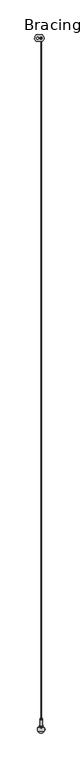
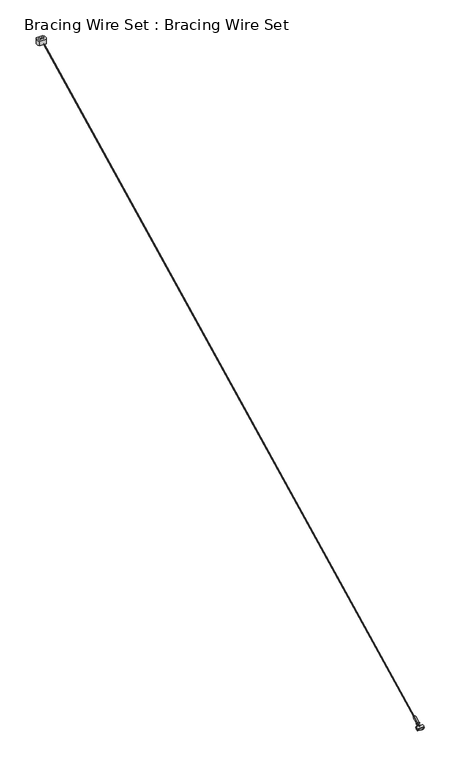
"""IFC4 building model written with IfcOpenShell, lengths in millimetres: proxy geometry, Bracing Wire Set : Bracing Wire Set."""

from ifc_helpers import new_model, si_unit, point, frame, frame_2d, origin, origin_with_axes, place, context, project, spatial, polyline, circle_curve, trimmed, segment, composite_curve, outline, extrude, faceted_brep, source, transform, mapped, element, save


def bracing_wire_set_bracing_wire_set_d6569037(model_context):
    return source(origin(), model_context, "Body", "SolidModel", [
        extrude(outline(composite_curve([segment(trimmed(circle_curve(frame_2d((-404.7764292, 1961.8506976)), 12.7335927), [point((-396.2736485, 1971.3294688))], [point((-395.7036855, 1952.9159505))], False, "CARTESIAN"), True, "CONTINUOUS"), segment(polyline([(-395.7036855, 1952.9159505), (-414.7806619, 1952.9159505)]), True, "CONTINUOUS"), segment(trimmed(circle_curve(frame_2d((-405.6549014, 1961.8486387)), 12.7699813), [point((-414.7806619, 1952.9159505))], [point((-414.2097995, 1971.3294688))], False, "CARTESIAN"), True, "CONTINUOUS"), segment(polyline([(-414.2097995, 1971.3294688), (-396.2736485, 1971.3294688)]), True, "CONTINUOUS")], self_intersect=False), holes=[composite_curve([segment(trimmed(circle_curve(frame_2d((-400.0583001, 1962.1903751)), 3.0), [point((-403.0583001, 1962.1903751))], [point((-397.0583001, 1962.1903751))], True, "CARTESIAN"), True, "CONTINUOUS"), segment(trimmed(circle_curve(frame_2d((-400.0583001, 1962.1903751)), 3.0), [point((-397.0583001, 1962.1903751))], [point((-403.0583001, 1962.1903751))], True, "CARTESIAN"), True, "CONTINUOUS")], self_intersect=False), composite_curve([segment(trimmed(circle_curve(frame_2d((-410.0583001, 1962.1903751)), 3.0), [point((-413.0583001, 1962.1903751))], [point((-407.0583001, 1962.1903751))], True, "CARTESIAN"), True, "CONTINUOUS"), segment(trimmed(circle_curve(frame_2d((-410.0583001, 1962.1903751)), 3.0), [point((-407.0583001, 1962.1903751))], [point((-413.0583001, 1962.1903751))], True, "CARTESIAN"), True, "CONTINUOUS")], self_intersect=False)]), frame((0.0, 0.0, 985.9085769), z_axis=(0.0, 0.0, 1.0), x_axis=(1.0, 0.0, 0.0)), (0.0, 0.0, 1.0), 14.0914231),
        faceted_brep([(-399.2301452, 2.816482, 3.2150732), (-400.0, 2.6732901, 3.5), (-400.7698548, 2.816482, 3.2150732), (-401.0887392, 3.1621777, 2.527199), (-400.7698548, 3.5078734, 1.8393247), (-400.0, 3.6510653, 1.5543979), (-399.2301452, 3.5078734, 1.8393247), (-398.9112608, 3.1621777, 2.527199), (-398.9112608, 1971.3294688, 991.6426613), (-399.2301452, 1971.3294688, 992.5042672), (-399.2301452, 1971.3294688, 990.7810555), (-400.0, 1971.3294688, 990.4241666), (-400.7698548, 1971.3294688, 990.7810555), (-401.0887392, 1971.3294688, 991.6426613), (-400.7698548, 1971.3294688, 992.5042672), (-400.0, 1971.3294688, 992.8611561)], [[[0, 1, 2, 3, 4, 5, 6, 7]], [[0, 7, 8, 9]], [[7, 6, 10, 8]], [[6, 5, 11, 10]], [[5, 4, 12, 11]], [[4, 3, 13, 12]], [[3, 2, 14, 13]], [[2, 1, 15, 14]], [[1, 0, 9, 15]], [[9, 8, 10, 11, 12, 13, 14, 15]]]),
        extrude(outline(composite_curve([segment(polyline([(-408.6260848, 4.093637), (-391.8573632, 4.093637)]), True, "CONTINUOUS"), segment(trimmed(circle_curve(frame_2d((-399.5177315, 0.093637)), 8.6418309), [point((-391.8573632, 4.093637))], [point((-391.8573632, -3.906363))], False, "CARTESIAN"), True, "CONTINUOUS"), segment(polyline([(-391.8573632, -3.906363), (-408.6260848, -3.906363)]), True, "CONTINUOUS"), segment(trimmed(circle_curve(frame_2d((-400.9657166, 0.093637)), 8.6418309), [point((-408.6260848, -3.906363))], [point((-408.6260848, 4.093637))], False, "CARTESIAN"), True, "CONTINUOUS")], self_intersect=False)), frame((0.0, 0.0, -4.3497354), z_axis=(0.0, 0.0, 1.0), x_axis=(1.0, 0.0, 0.0)), (0.0, 0.0, 1.0), 4.3497354),
        extrude(outline(composite_curve([segment(trimmed(circle_curve(frame_2d((0.0, -2.0419803)), 2.0419802), [point((0.0, -4.0839605))], [point((0.0, 0.0))], False, "CARTESIAN"), True, "CONTINUOUS"), segment(trimmed(circle_curve(frame_2d((0.0, -2.0419803)), 2.0419802), [point((0.0, 0.0))], [point((0.0, -4.0839605))], False, "CARTESIAN"), True, "CONTINUOUS")], self_intersect=False)), frame((-397.8517245, 29.3301112, 15.5691884), z_axis=(0.0, 0.8935115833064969, 0.44904014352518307), x_axis=(0.0, -0.44904014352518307, 0.8935115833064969)), (0.0, 0.0, 1.0), 3.8149593),
        extrude(outline(composite_curve([segment(trimmed(circle_curve(frame_2d((0.0, -3.526017)), 3.5260169), [point((0.0, -7.0520339))], [point((0.0, 0.0))], False, "CARTESIAN"), True, "CONTINUOUS"), segment(trimmed(circle_curve(frame_2d((0.0, -3.526017)), 3.5260169), [point((0.0, 0.0))], [point((0.0, -7.0520339))], False, "CARTESIAN"), True, "CONTINUOUS")], self_intersect=False)), frame((-396.1588422, 11.3894669, 6.7284944), z_axis=(0.0, 0.8935115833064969, 0.44904014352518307), x_axis=(0.0, -0.44904014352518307, 0.8935115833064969)), (0.0, 0.0, 1.0), 20.0),
        extrude(outline(composite_curve([segment(trimmed(circle_curve(frame_2d((0.0, -4.6190623)), 4.6190623), [point((0.0, -9.2381245))], [point((0.0, 0.0))], False, "CARTESIAN"), True, "CONTINUOUS"), segment(trimmed(circle_curve(frame_2d((0.0, -4.6190623)), 4.6190623), [point((0.0, 0.0))], [point((0.0, -9.2381245))], False, "CARTESIAN"), True, "CONTINUOUS")], self_intersect=False)), frame((-395.2117226, 10.4529811, 6.3649655), z_axis=(0.0, 0.8935115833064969, 0.44904014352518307), x_axis=(0.0, -0.44904014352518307, 0.8935115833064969)), (0.0, 0.0, 1.0), 1.0),
        extrude(outline(composite_curve([segment(trimmed(circle_curve(frame_2d((-400.2064846, 0.1848983)), 10.6943727), [point((-410.9008572, 0.1848983))], [point((-389.5121119, 0.1848983))], False, "CARTESIAN"), True, "CONTINUOUS"), segment(trimmed(circle_curve(frame_2d((-400.2064846, 0.1848983)), 10.6943727), [point((-389.5121119, 0.1848983))], [point((-410.9008572, 0.1848983))], False, "CARTESIAN"), True, "CONTINUOUS")], self_intersect=False)), origin_with_axes(), (0.0, 0.0, 1.0), 1.0),
        extrude(outline(composite_curve([segment(trimmed(circle_curve(frame_2d((-399.5177315, 0.093637)), 9.6418309), [point((-391.2736485, 5.093637))], [point((-391.2736485, -4.906363))], False, "CARTESIAN"), True, "CONTINUOUS"), segment(polyline([(-391.2736485, -4.906363), (-409.2097995, -4.906363)]), True, "CONTINUOUS"), segment(trimmed(circle_curve(frame_2d((-400.9657166, 0.093637)), 9.6418309), [point((-409.2097995, -4.906363))], [point((-409.2097995, 5.093637))], False, "CARTESIAN"), True, "CONTINUOUS"), segment(polyline([(-409.2097995, 5.093637), (-391.2736485, 5.093637)]), True, "CONTINUOUS")], self_intersect=False)), frame((0.0, 0.0, 1.0), z_axis=(0.0, 0.0, 1.0), x_axis=(1.0, 0.0, 0.0)), (0.0, 0.0, 1.0), 2.5),
    ])


if __name__ == "__main__":
    model = new_model("IFC4")
    model_context = context("Model", 3, world=origin())
    ifc_project = project(units=[si_unit("LENGTHUNIT", "METRE", prefix="MILLI")], contexts=[model_context])
    site = spatial("IfcSite", under=ifc_project)
    building = spatial("IfcBuilding", under=site)
    placement = place(None, origin())
    bracing_wire_set_bracing_wire_set_shape = bracing_wire_set_bracing_wire_set_d6569037(model_context)
    element("IfcBuildingElementProxy", 1, Name="Bracing Wire Set : Bracing Wire Set", ObjectType="Bracing Wire Set : Bracing Wire Set", at=placement, inside=building, context=model_context, shape_type="MappedRepresentation", body=[
        mapped(bracing_wire_set_bracing_wire_set_shape, transform((0.0, 0.0, 0.0), x_axis=(1.0, 0.0, 0.0), y_axis=(0.0, 1.0, 0.0), z_axis=(0.0, 0.0, 1.0))),
    ])
    save(model, "model.ifc")
